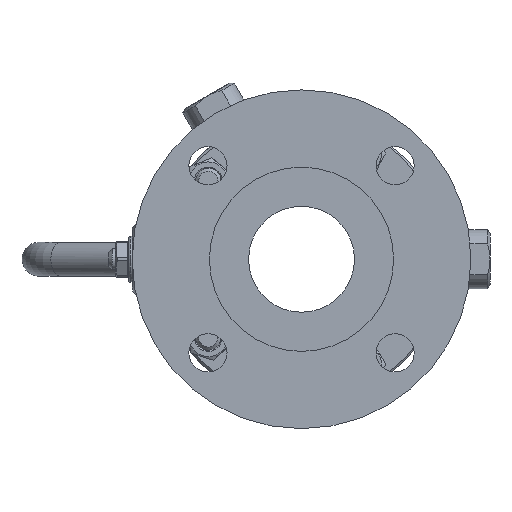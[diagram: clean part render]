
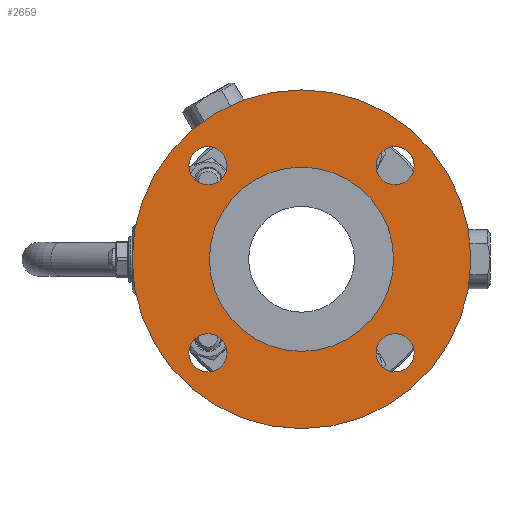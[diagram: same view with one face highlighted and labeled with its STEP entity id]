
A CAD part, left-side view. The second image highlights one B-rep face of the part: STEP entity #2659.
In plain terms, the highlighted planar face has unit normal (-1, 0, 0).
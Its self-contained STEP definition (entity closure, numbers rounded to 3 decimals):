
#2659=ADVANCED_FACE('',(#5984,#5986,#5988,#5990,#5992,#5994),#5996,.T.);
#5984=FACE_BOUND('',#5985,.T.);
#5985=EDGE_LOOP('',(#7832));
#5986=FACE_BOUND('',#5987,.T.);
#5987=EDGE_LOOP('',(#7833));
#5988=FACE_BOUND('',#5989,.T.);
#5989=EDGE_LOOP('',(#7834));
#5990=FACE_BOUND('',#5991,.T.);
#5991=EDGE_LOOP('',(#7835));
#5992=FACE_BOUND('',#5993,.T.);
#5993=EDGE_LOOP('',(#7836));
#5994=FACE_BOUND('',#5995,.T.);
#5995=EDGE_LOOP('',(#7837));
#5996=PLANE('',#5997);
#5997=AXIS2_PLACEMENT_3D('',#5998,#5999,#6000);
#5998=CARTESIAN_POINT('',(-104.,0.,0.));
#5999=DIRECTION('',(-1.,-0.,-0.));
#6000=DIRECTION('',(0.,1.,0.));
#7832=ORIENTED_EDGE('',*,*,#8659,.F.);
#7833=ORIENTED_EDGE('',*,*,#8625,.T.);
#7834=ORIENTED_EDGE('',*,*,#8626,.T.);
#7835=ORIENTED_EDGE('',*,*,#8627,.T.);
#7836=ORIENTED_EDGE('',*,*,#8628,.T.);
#7837=ORIENTED_EDGE('',*,*,#8660,.T.);
#8625=EDGE_CURVE('',#9740,#9740,#9741,.F.);
#8626=EDGE_CURVE('',#9742,#9742,#9743,.F.);
#8627=EDGE_CURVE('',#9744,#9744,#9745,.F.);
#8628=EDGE_CURVE('',#9746,#9746,#9747,.F.);
#8659=EDGE_CURVE('',#9808,#9808,#9809,.T.);
#8660=EDGE_CURVE('',#9810,#9810,#9811,.T.);
#9740=VERTEX_POINT('',#21008);
#9741=CIRCLE('',#21009,9.);
#9742=VERTEX_POINT('',#21013);
#9743=CIRCLE('',#21014,9.);
#9744=VERTEX_POINT('',#21018);
#9745=CIRCLE('',#21019,9.);
#9746=VERTEX_POINT('',#21023);
#9747=CIRCLE('',#21024,9.);
#9808=VERTEX_POINT('',#21174);
#9809=CIRCLE('',#21175,80.);
#9810=VERTEX_POINT('',#21179);
#9811=CIRCLE('',#21180,43.5);
#21008=CARTESIAN_POINT('',(-104.,44.194,53.194));
#21009=AXIS2_PLACEMENT_3D('',#21010,#21011,#21012);
#21010=CARTESIAN_POINT('',(-104.,44.194,44.194));
#21011=DIRECTION('',(-1.,-0.,-0.));
#21012=DIRECTION('',(-0.,0.,1.));
#21013=CARTESIAN_POINT('',(-104.,44.194,-35.194));
#21014=AXIS2_PLACEMENT_3D('',#21015,#21016,#21017);
#21015=CARTESIAN_POINT('',(-104.,44.194,-44.194));
#21016=DIRECTION('',(-1.,-0.,-0.));
#21017=DIRECTION('',(-0.,0.,1.));
#21018=CARTESIAN_POINT('',(-104.,-44.194,53.194));
#21019=AXIS2_PLACEMENT_3D('',#21020,#21021,#21022);
#21020=CARTESIAN_POINT('',(-104.,-44.194,44.194));
#21021=DIRECTION('',(-1.,-0.,-0.));
#21022=DIRECTION('',(-0.,0.,1.));
#21023=CARTESIAN_POINT('',(-104.,-44.194,-35.194));
#21024=AXIS2_PLACEMENT_3D('',#21025,#21026,#21027);
#21025=CARTESIAN_POINT('',(-104.,-44.194,-44.194));
#21026=DIRECTION('',(-1.,-0.,-0.));
#21027=DIRECTION('',(-0.,0.,1.));
#21174=CARTESIAN_POINT('',(-104.,80.,0.));
#21175=AXIS2_PLACEMENT_3D('',#21176,#21177,#21178);
#21176=CARTESIAN_POINT('',(-104.,0.,0.));
#21177=DIRECTION('',(1.,0.,0.));
#21178=DIRECTION('',(0.,1.,0.));
#21179=CARTESIAN_POINT('',(-104.,43.5,0.));
#21180=AXIS2_PLACEMENT_3D('',#21181,#21182,#21183);
#21181=CARTESIAN_POINT('',(-104.,0.,0.));
#21182=DIRECTION('',(1.,0.,0.));
#21183=DIRECTION('',(0.,1.,0.));
